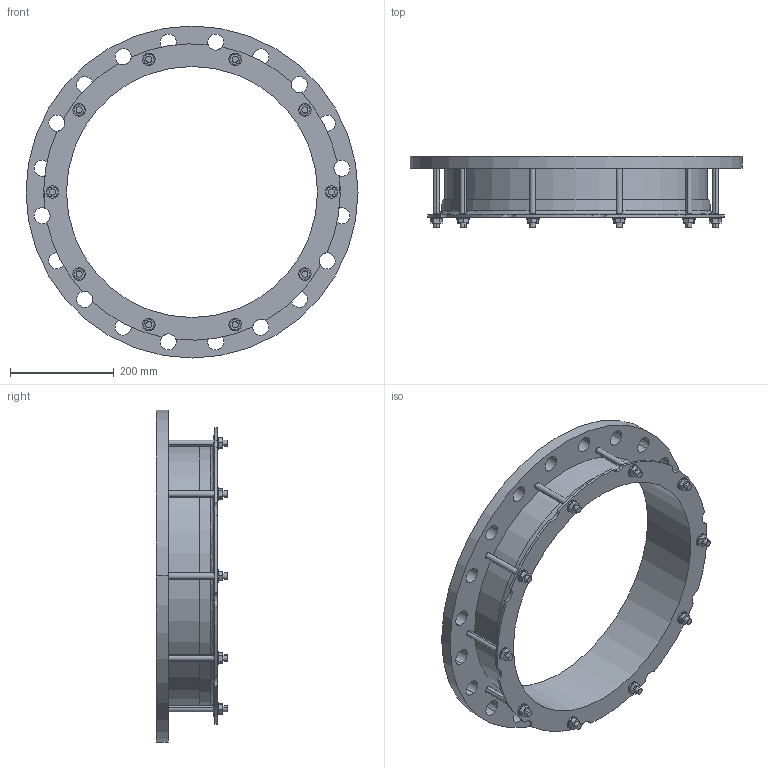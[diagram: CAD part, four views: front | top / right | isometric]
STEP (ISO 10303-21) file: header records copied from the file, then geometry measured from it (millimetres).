
FILE_DESCRIPTION((''),'2;1');
FILE_NAME('480X450PN16_10NOT','2019-01-16T',('mfairey'),('Glynwed Pipe Systems'),'CREO PARAMETRIC BY PTC INC, 2016130','CREO PARAMETRIC BY PTC INC, 2016130','');
FILE_SCHEMA(('CONFIG_CONTROL_DESIGN'));
Length unit declared in the file: millimetre
Products named in the file (1): 480X450PN16_10NOT
Bounding box: 640 x 137.45 x 640 mm (x, y, z)
Volume: 5191195 mm3; surface area: 805729.2 mm2
Topology: 1 solids, 1 shells, 226 faces, 604 edges, 402 vertices
Faces by surface type: cylinder 126, plane 94, cone 4, torus 2
Entity records: 8028 total; most frequent: CARTESIAN_POINT 2074, DIRECTION 1242, ORIENTED_EDGE 1208, EDGE_CURVE 604, AXIS2_PLACEMENT_3D 466, VERTEX_POINT 402, VECTOR 310, LINE 310
